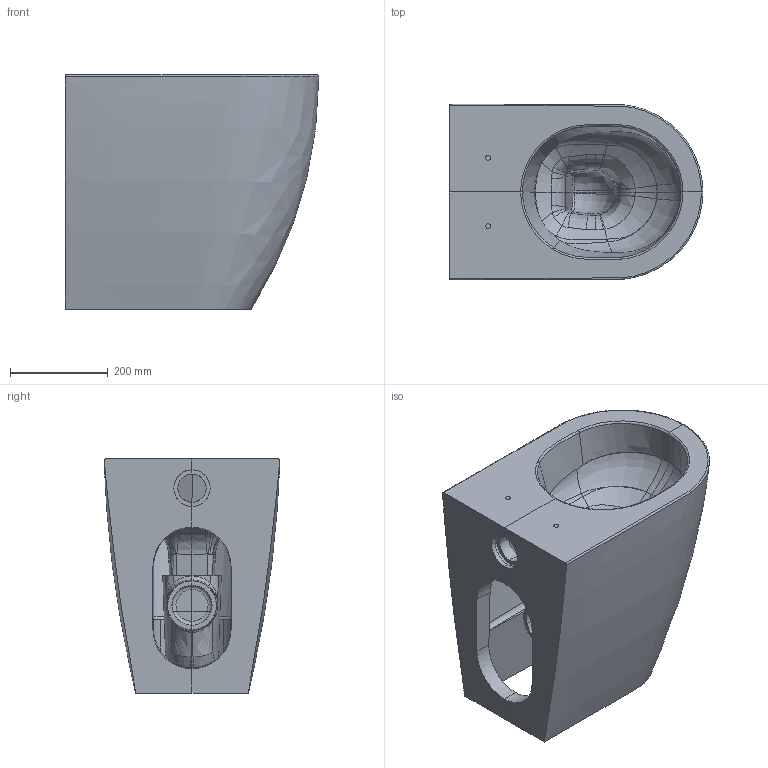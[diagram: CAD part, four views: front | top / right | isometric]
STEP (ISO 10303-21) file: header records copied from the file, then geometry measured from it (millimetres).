
FILE_DESCRIPTION(('CATIA V5 STEP Exchange'),'2;1');
FILE_NAME('C:\Users\Luca\Documents\CAD GALASSIA\3D IGS per sito web\DREAM\7331_3D.stp','2022-03-24T09:14:53+00:00',('none'),('none'),'CATIA Version 5 Release 19 SP 5 (IN-10)','CATIA V5 STEP AP214','none');
FILE_SCHEMA(('AUTOMOTIVE_DESIGN { 1 0 10303 214 1 1 1 1 }'));
Products named in the file (1): Vaso terra Dream 52 h48
Bounding box: 519.98 x 359.48 x 479.99 mm (x, y, z)
Surface area: 1712566.2 mm2 (no closed solid volume)
Topology: 0 solids, 4 shells, 222 faces, 630 edges, 395 vertices
Faces by surface type: bspline 176, plane 26, cylinder 18, sphere 2
Entity records: 61321 total; most frequent: CARTESIAN_POINT 57282, ORIENTED_EDGE 1178, EDGE_CURVE 618, B_SPLINE_CURVE_WITH_KNOTS 538, VERTEX_POINT 395, EDGE_LOOP 224, ADVANCED_FACE 222, FACE_OUTER_BOUND 222
